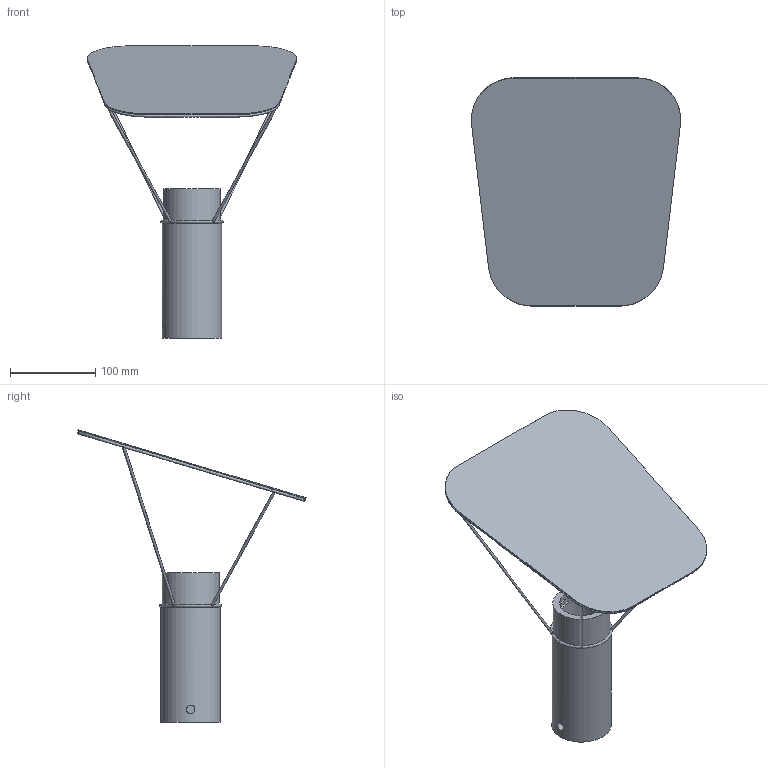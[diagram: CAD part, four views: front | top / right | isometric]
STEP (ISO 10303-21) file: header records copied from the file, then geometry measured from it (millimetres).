
FILE_DESCRIPTION( ( 'STEP AP203' ), '1' );
FILE_NAME( '//srvbf/BF Disegni/MARINELLI FABIO/STAGE/STAGE-B Lumetto BIANCO.stp', '2020-10-15T15:57:44', ( ' ' ), ( ' ' ), 'XStep 1.0', ' ', ' ' );
FILE_SCHEMA( ( 'CONFIG_CONTROL_DESIGN) ( )' ) );
Length unit declared in the file: metre
Products named in the file (4): Assem1; 1; 2; 3
Bounding box: 245.47 x 267.81 x 342.73 mm (x, y, z)
Volume: 875588.4 mm3; surface area: 417594.8 mm2
Topology: 6 solids, 6 shells, 62 faces, 154 edges, 108 vertices
Faces by surface type: cylinder 32, plane 24, torus 4, bspline 2
Full cylindrical faces by diameter (mm): 3 x8, 5 x4, 10 x2, 46 x2, 51 x4, 67 x2, 70 x2
Entity records: 3405 total; most frequent: CARTESIAN_POINT 2572, DIRECTION 128, ORIENTED_EDGE 112, EDGE_LOOP 58, AXIS2_PLACEMENT_3D 56, EDGE_CURVE 56, VERTEX_POINT 48, FACE_OUTER_BOUND 42
